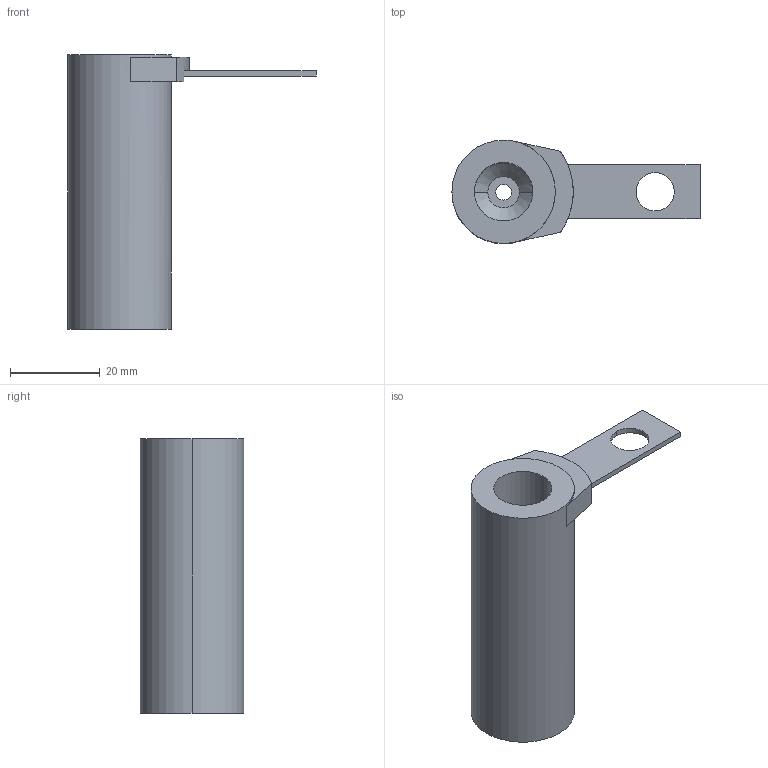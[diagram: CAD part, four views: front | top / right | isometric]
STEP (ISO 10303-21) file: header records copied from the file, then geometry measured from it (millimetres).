
FILE_DESCRIPTION(/* description */ (''),/* implementation_level */ '2;1');
FILE_NAME(/* name */ '3d_tus13-61_06254_r00.stp',/* time_stamp */ '2011-01-10T14:08:55+09:00',/* author */ ('MISUMI'),/* organization */ (''),/* preprocessor_version */ 'ST-DEVELOPER v11',/* originating_system */ 'UGS - NX 5.0',/* authorisation */ '');
FILE_SCHEMA (('CONFIG_CONTROL_DESIGN'));
Length unit declared in the file: millimetre
Products named in the file (1): 3d_tus13-61_06254_r00
Bounding box: 55.21 x 23 x 61 mm (x, y, z)
Volume: 18900.6 mm3; surface area: 8490.5 mm2
Topology: 2 solids, 2 shells, 28 faces, 67 edges, 44 vertices
Faces by surface type: plane 17, cylinder 9, cone 2
Entity records: 915 total; most frequent: DIRECTION 153, CARTESIAN_POINT 140, ORIENTED_EDGE 134, EDGE_CURVE 67, AXIS2_PLACEMENT_3D 57, VERTEX_POINT 44, LINE 39, VECTOR 39
